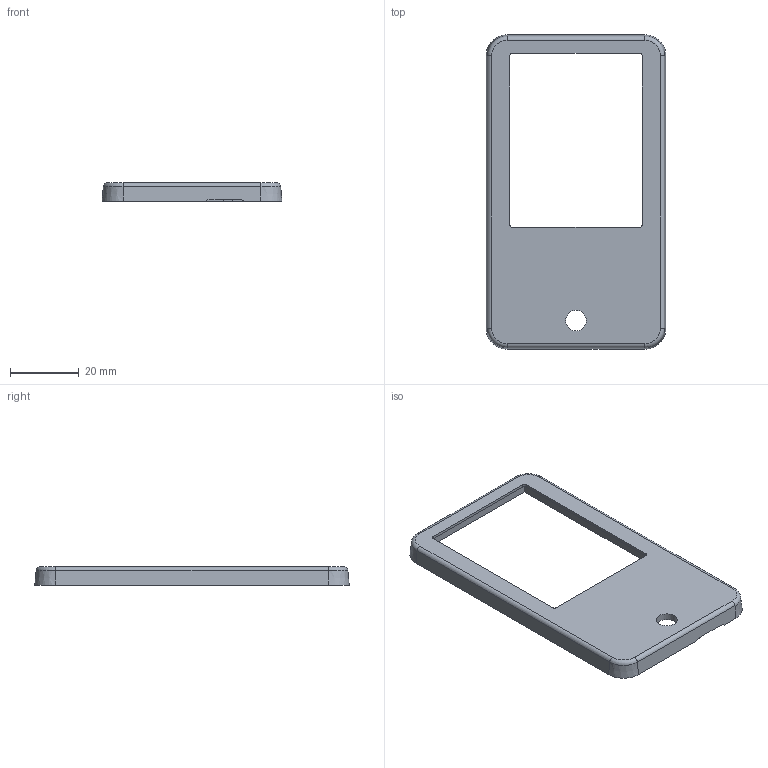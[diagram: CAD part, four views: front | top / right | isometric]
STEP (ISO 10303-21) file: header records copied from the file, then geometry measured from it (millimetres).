
FILE_DESCRIPTION(('Open CASCADE Model'),'2;1');
FILE_NAME('Open CASCADE Shape Model','2026-10-28T10:02:06',('Author'),( 'Open CASCADE'),'Open CASCADE STEP processor 7.7','Open CASCADE 7.7' ,'Unknown');
FILE_SCHEMA(('AUTOMOTIVE_DESIGN { 1 0 10303 214 1 1 1 1 }'));
Length unit declared in the file: millimetre
Products named in the file (1): SOLID
Bounding box: 52.2 x 91.2 x 5.33 mm (x, y, z)
Volume: 6719.2 mm3; surface area: 8978.1 mm2
Topology: 1 solids, 1 shells, 77 faces, 205 edges, 134 vertices
Faces by surface type: plane 48, cylinder 21, cone 4, torus 4
Full cylindrical faces by diameter (mm): 1.6 x1, 4.4 x1, 6 x1
Entity records: 4971 total; most frequent: CARTESIAN_POINT 1128, DIRECTION 634, ORIENTED_EDGE 410, PCURVE 410, DEFINITIONAL_REPRESENTATION 410, LINE 348, VECTOR 348, EDGE_CURVE 205
